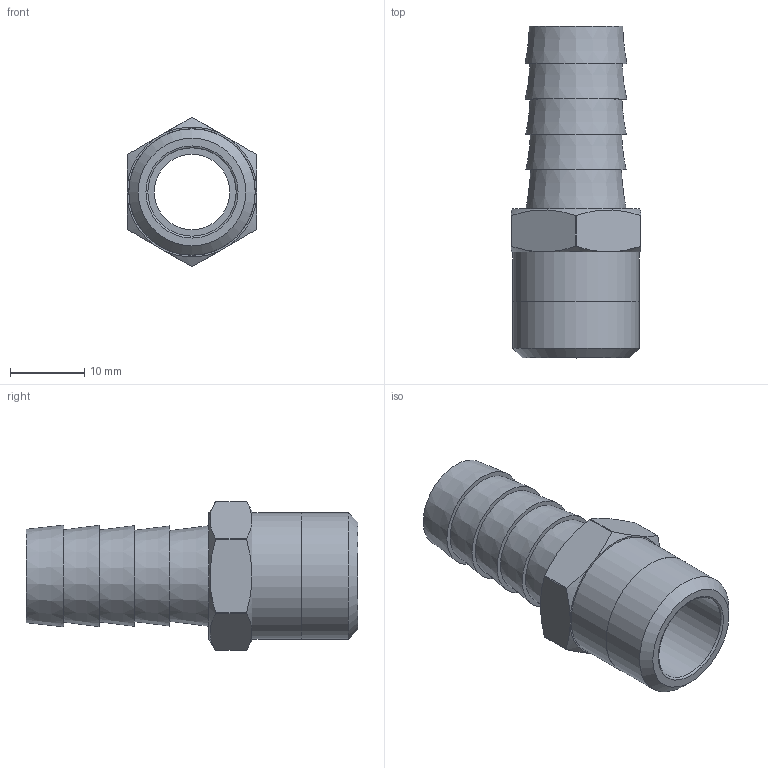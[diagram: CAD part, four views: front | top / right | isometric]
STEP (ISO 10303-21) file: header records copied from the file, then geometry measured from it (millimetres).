
FILE_DESCRIPTION(/* description */ (''),/* implementation_level */ '2;1');
FILE_NAME(/* name */ 'C:/Users/drich/Desktop/MB50-6 v1.step',/* time_stamp */ '2020-02-02T14:55:48-06:00',/* author */ (''),/* organization */ (''),/* preprocessor_version */ 'ST-DEVELOPER v18',/* originating_system */ 'Autodesk Translation Framework v8.12.0.6',/* authorisation */ '');
FILE_SCHEMA (('AUTOMOTIVE_DESIGN { 1 0 10303 214 3 1 1 }'));
Length unit declared in the file: inch
Products named in the file (2): MB50-6; 50 BARB ONLY
Assembly tree (1 placements, depth 2):
  MB50-6
    50 BARB ONLY
Bounding box: 17.45 x 44.7 x 20.07 mm (x, y, z)
Volume: 3878.4 mm3; surface area: 4132.4 mm2
Topology: 2 solids, 2 shells, 43 faces, 115 edges, 82 vertices
Faces by surface type: plane 16, cone 15, cylinder 11, torus 1
Full cylindrical faces by diameter (mm): 10.16 x1, 10.312 x1, 11.887 x1, 17.018 x1, 17.069 x1
Entity records: 1455 total; most frequent: CARTESIAN_POINT 279, DIRECTION 254, ORIENTED_EDGE 230, EDGE_CURVE 115, AXIS2_PLACEMENT_3D 111, VERTEX_POINT 82, CIRCLE 65, EDGE_LOOP 53
